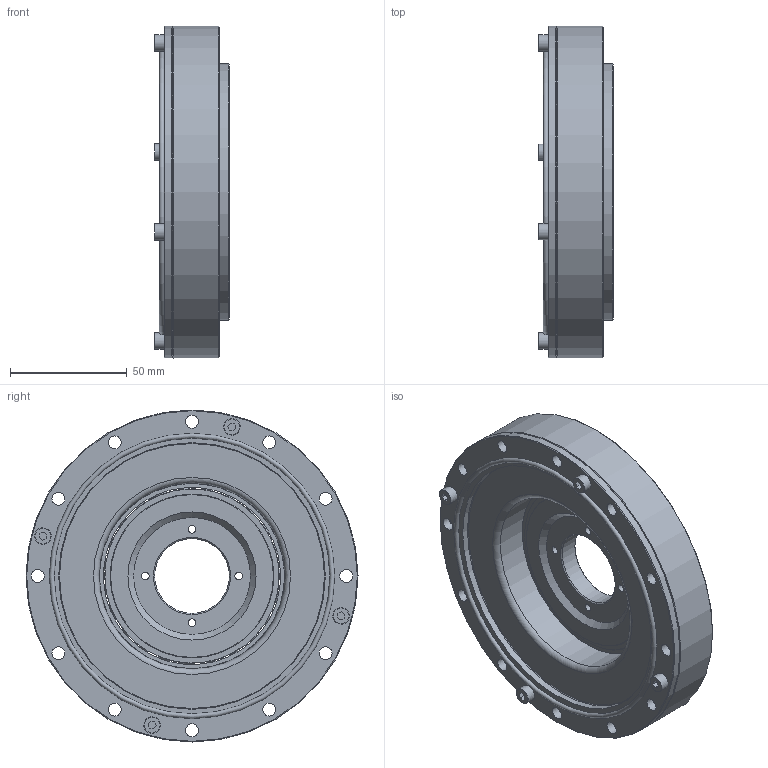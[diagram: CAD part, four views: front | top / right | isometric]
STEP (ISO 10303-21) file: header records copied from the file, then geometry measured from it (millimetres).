
FILE_DESCRIPTION (( 'STEP AP203' ), '1' );
FILE_NAME ('FHD-32-XXX-SH.STEP', '2025-08-11T08:29:12', ( '微软用户' ), ( '微软中国' ), 'SwSTEP 2.0', 'SolidWorks 2016', '' );
FILE_SCHEMA (( 'CONFIG_CONTROL_DESIGN' ));
Length unit declared in the file: millimetre
Products named in the file (1): FHD-32-XXX-SH
Bounding box: 31.9 x 142 x 142 mm (x, y, z)
Volume: 256137.2 mm3; surface area: 144248.7 mm2
Topology: 39 solids, 39 shells, 354 faces, 856 edges, 551 vertices
Faces by surface type: cylinder 138, plane 117, cone 49, torus 24, sphere 23, bspline 3
Full cylindrical faces by diameter (mm): 3.3 x8, 4 x4, 4.2 x12, 4.5 x4, 5.5 x24, 7 x4, 32 x1, 58.928 x1, 63 x1, 63.04 x2, 64.5 x1, 70 x1, 74.5 x1, 75.82 x2, 79.56 x1, 79.756 x1, 80.938 x1, 81.776 x1, 83.206 x1, 86 x1, 86.5 x1, 89.1 x1, 110 x3, 110.25 x2, 112.75 x2, 113.5 x1, 114 x1, 117.6 x1, 118.5 x1, 122 x2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
Entity records: 10520 total; most frequent: CARTESIAN_POINT 3061, DIRECTION 1692, ORIENTED_EDGE 1162, AXIS2_PLACEMENT_3D 764, EDGE_LOOP 594, EDGE_CURVE 581, VERTEX_POINT 465, FACE_OUTER_BOUND 442
